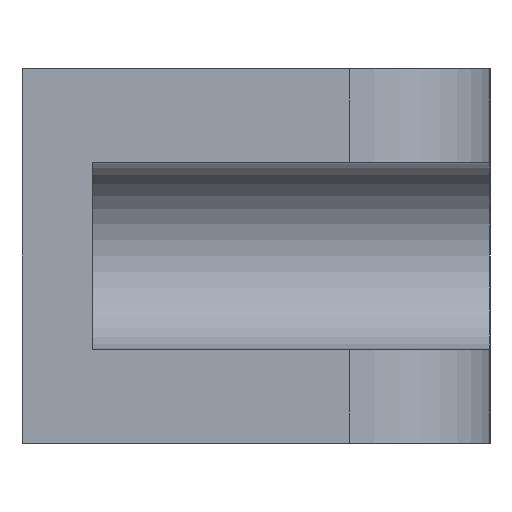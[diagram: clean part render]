
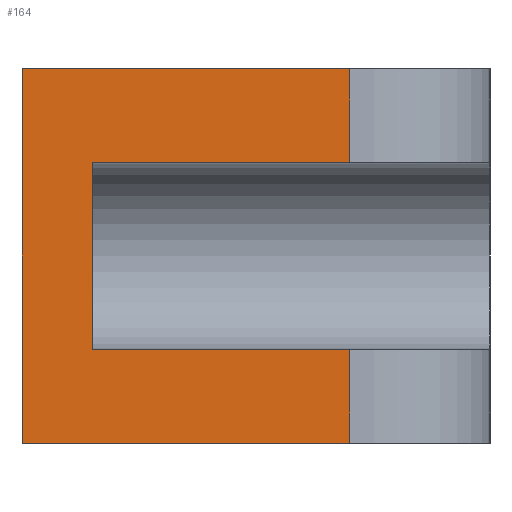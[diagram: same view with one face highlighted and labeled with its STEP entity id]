
A CAD part, left-side view. The second image highlights one B-rep face of the part: STEP entity #164.
In plain terms, the highlighted planar face has unit normal (-1, 0, 0).
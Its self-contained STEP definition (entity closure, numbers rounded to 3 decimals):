
#20 = EDGE_LOOP ( 'NONE', ( #278, #27, #463, #131, #498, #356, #579, #244 ) ) ;
#22 = CARTESIAN_POINT ( 'NONE',  ( 0., 6., -8. ) ) ;
#23 = CARTESIAN_POINT ( 'NONE',  ( 0., 20., 8. ) ) ;
#24 = LINE ( 'NONE', #328, #607 ) ;
#27 = ORIENTED_EDGE ( 'NONE', *, *, #548, .T. ) ;
#51 = EDGE_CURVE ( 'NONE', #410, #379, #24, .T. ) ;
#79 = LINE ( 'NONE', #486, #406 ) ;
#96 = VERTEX_POINT ( 'NONE', #231 ) ;
#113 = DIRECTION ( 'NONE',  ( 0., -1., 0. ) ) ;
#117 = FACE_OUTER_BOUND ( 'NONE', #20, .T. ) ;
#131 = ORIENTED_EDGE ( 'NONE', *, *, #326, .F. ) ;
#144 = VERTEX_POINT ( 'NONE', #22 ) ;
#158 = CARTESIAN_POINT ( 'NONE',  ( 0., 17., 4. ) ) ;
#164 = ADVANCED_FACE ( 'NONE', ( #117 ), #180, .F. ) ;
#178 = LINE ( 'NONE', #677, #480 ) ;
#180 = PLANE ( 'NONE',  #626 ) ;
#202 = VECTOR ( 'NONE', #641, 1000. ) ;
#231 = CARTESIAN_POINT ( 'NONE',  ( 0., 6., -4. ) ) ;
#235 = DIRECTION ( 'NONE',  ( 1., 0., 0. ) ) ;
#239 = EDGE_CURVE ( 'NONE', #144, #96, #614, .T. ) ;
#244 = ORIENTED_EDGE ( 'NONE', *, *, #285, .F. ) ;
#258 = EDGE_CURVE ( 'NONE', #304, #323, #178, .T. ) ;
#266 = VECTOR ( 'NONE', #113, 1000. ) ;
#274 = EDGE_CURVE ( 'NONE', #621, #392, #334, .T. ) ;
#278 = ORIENTED_EDGE ( 'NONE', *, *, #51, .F. ) ;
#282 = DIRECTION ( 'NONE',  ( 0., 0., -1. ) ) ;
#285 = EDGE_CURVE ( 'NONE', #379, #96, #727, .T. ) ;
#300 = VECTOR ( 'NONE', #652, 1000. ) ;
#304 = VERTEX_POINT ( 'NONE', #550 ) ;
#310 = DIRECTION ( 'NONE',  ( 0., 0., -1. ) ) ;
#323 = VERTEX_POINT ( 'NONE', #534 ) ;
#326 = EDGE_CURVE ( 'NONE', #621, #323, #638, .T. ) ;
#328 = CARTESIAN_POINT ( 'NONE',  ( 0., 17., 4. ) ) ;
#334 = LINE ( 'NONE', #647, #300 ) ;
#341 = EDGE_CURVE ( 'NONE', #392, #144, #79, .T. ) ;
#356 = ORIENTED_EDGE ( 'NONE', *, *, #341, .T. ) ;
#379 = VERTEX_POINT ( 'NONE', #452 ) ;
#392 = VERTEX_POINT ( 'NONE', #447 ) ;
#398 = CARTESIAN_POINT ( 'NONE',  ( 0., 17., 4. ) ) ;
#406 = VECTOR ( 'NONE', #494, 1000. ) ;
#410 = VERTEX_POINT ( 'NONE', #398 ) ;
#447 = CARTESIAN_POINT ( 'NONE',  ( 0., 20., -8. ) ) ;
#452 = CARTESIAN_POINT ( 'NONE',  ( 0., 17., -4. ) ) ;
#463 = ORIENTED_EDGE ( 'NONE', *, *, #258, .T. ) ;
#480 = VECTOR ( 'NONE', #637, 1000. ) ;
#486 = CARTESIAN_POINT ( 'NONE',  ( 0., 0., -8. ) ) ;
#494 = DIRECTION ( 'NONE',  ( 0., -1., 0. ) ) ;
#498 = ORIENTED_EDGE ( 'NONE', *, *, #274, .T. ) ;
#507 = DIRECTION ( 'NONE',  ( 0., -1., 0. ) ) ;
#534 = CARTESIAN_POINT ( 'NONE',  ( 0., 6., 8. ) ) ;
#548 = EDGE_CURVE ( 'NONE', #410, #304, #565, .T. ) ;
#550 = CARTESIAN_POINT ( 'NONE',  ( 0., 6., 4. ) ) ;
#564 = CARTESIAN_POINT ( 'NONE',  ( 0., 0., 8. ) ) ;
#565 = LINE ( 'NONE', #158, #266 ) ;
#579 = ORIENTED_EDGE ( 'NONE', *, *, #239, .T. ) ;
#582 = CARTESIAN_POINT ( 'NONE',  ( 0., 6., 8. ) ) ;
#607 = VECTOR ( 'NONE', #310, 1000. ) ;
#609 = CARTESIAN_POINT ( 'NONE',  ( 0., 17., -4. ) ) ;
#614 = LINE ( 'NONE', #582, #202 ) ;
#615 = VECTOR ( 'NONE', #625, 1000. ) ;
#621 = VERTEX_POINT ( 'NONE', #23 ) ;
#625 = DIRECTION ( 'NONE',  ( 0., -1., 0. ) ) ;
#626 = AXIS2_PLACEMENT_3D ( 'NONE', #690, #235, #282 ) ;
#637 = DIRECTION ( 'NONE',  ( 0., 0., 1. ) ) ;
#638 = LINE ( 'NONE', #564, #675 ) ;
#641 = DIRECTION ( 'NONE',  ( 0., 0., 1. ) ) ;
#647 = CARTESIAN_POINT ( 'NONE',  ( 0., 20., 8. ) ) ;
#652 = DIRECTION ( 'NONE',  ( 0., 0., -1. ) ) ;
#675 = VECTOR ( 'NONE', #507, 1000. ) ;
#677 = CARTESIAN_POINT ( 'NONE',  ( 0., 6., 8. ) ) ;
#690 = CARTESIAN_POINT ( 'NONE',  ( 0., 0., 8. ) ) ;
#727 = LINE ( 'NONE', #609, #615 ) ;
